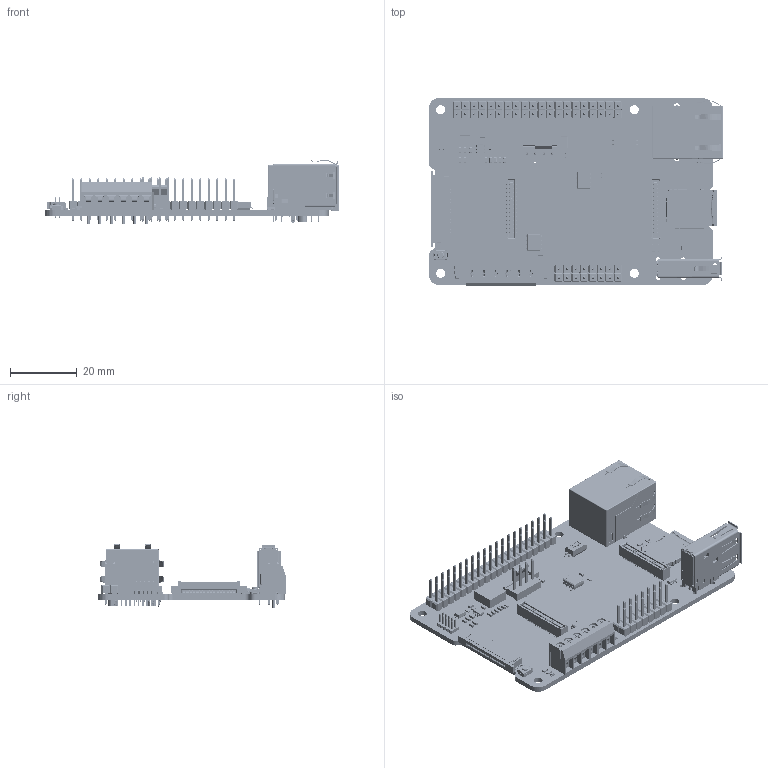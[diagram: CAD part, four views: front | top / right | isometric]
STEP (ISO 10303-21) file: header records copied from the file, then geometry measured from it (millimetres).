
FILE_DESCRIPTION(('Open CASCADE Model'),'2;1');
FILE_NAME('Open CASCADE Shape Model','2024-04-29T10:20:51',('Author'),( 'Open CASCADE'),'Open CASCADE STEP processor 7.5','Open CASCADE 7.5' ,'Unknown');
FILE_SCHEMA(('AUTOMOTIVE_DESIGN { 1 0 10303 214 1 1 1 1 }'));
Length unit declared in the file: millimetre
Products named in the file (103): PCB; Board; Open CASCADE STEP translator 7.5 2.1.1; PB1; PTS820J20KSMTRLFS; R11; RES-0603; J8; TRJG16414AENL; L2; 6734541968; Terminal; Open CASCADE STEP translator 7.5 14.1.1; Open CASCADE STEP translator 7.5 14.1.2; Mid Body; Open CASCADE STEP translator 7.5 14.2.1; C6; CAP-0603; J11; 470531000; Open CASCADE STEP translator 7.5 2.7.1.1; Open CASCADE STEP translator 7.5 2.7.1.2; SW2; 218-2_colors; 218-02-002; 218-40-002; 218 terminal lead frame002; 218 terminal lead frame; 218 terminal lead frame001; 218 terminal lead frame005; 218-56-003; R3; U1; 6292438960; Open CASCADE STEP translator 6.8 43.1; Body; Open CASCADE STEP translator 6.8 43.2.1; Leader; U2; C5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
Assembly tree (207 placements, depth 6):
  PCB
    Board
      Open CASCADE STEP translator 7.5 2.1.1
    PB1
      PTS820J20KSMTRLFS
    R11
      RES-0603
    J8
      TRJG16414AENL
    L2
      6734541968
        Terminal
          Open CASCADE STEP translator 7.5 14.1.1
          Open CASCADE STEP translator 7.5 14.1.2
        Mid Body
          Open CASCADE STEP translator 7.5 14.2.1
    C6
      CAP-0603
    J11
      470531000
        Open CASCADE STEP translator 7.5 2.7.1.1
        Open CASCADE STEP translator 7.5 2.7.1.2
    SW2
      218-2_colors
        218-02-002
        218-40-002
        218 terminal lead frame002
          218 terminal lead frame
          218 terminal lead frame001
        218 terminal lead frame005
          218 terminal lead frame
          218 terminal lead frame001
        218-56-003  x2
    R3
      RES-0603
    U1
      6292438960
        Open CASCADE STEP translator 6.8 43.1
        Body
          Open CASCADE STEP translator 6.8 43.2.1
        Leader  x8
    U2
      6292438960
        Open CASCADE STEP translator 6.8 43.1
        Body
          Open CASCADE STEP translator 6.8 43.2.1
        Leader  x8
    C5
      CAP-0603
    D1
      PRTR5V0U2X
    R6
      RES-0603
    DL3
      HSMx-190
    J10
      c-1-84952-5-a-3d_RGB12040119
    R5
      RES-0603
    J9
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Bounding box: 88.08 x 56.25 x 19.26 mm (x, y, z)
Volume: 14024.2 mm3; surface area: 24885.5 mm2
Topology: 205 solids, 211 shells, 12717 faces, 33446 edges, 21454 vertices
Faces by surface type: plane 8818, cylinder 2947, bspline 704, sphere 202, cone 27, torus 19
Full cylindrical faces by diameter (mm): 0.07 x2, 0.5 x2, 0.6 x11, 0.8 x1, 0.9 x14, 0.92 x4, 1 x60, 1.25 x1, 1.3 x6, 1.35 x4, 1.7 x2, 2 x1, 2.05 x1, 2.7 x4, 3.25 x2
Entity records: 224670 total; most frequent: CARTESIAN_POINT 50245, ORIENTED_EDGE 34545, DIRECTION 32197, EDGE_CURVE 17276, LINE 12761, VECTOR 12761, VERTEX_POINT 11145, AXIS2_PLACEMENT_3D 9718
